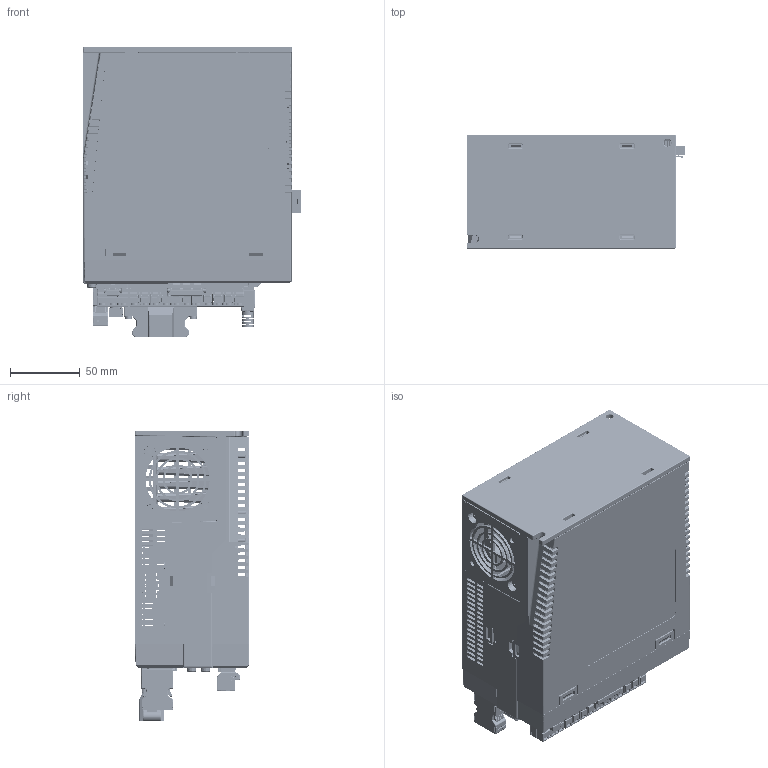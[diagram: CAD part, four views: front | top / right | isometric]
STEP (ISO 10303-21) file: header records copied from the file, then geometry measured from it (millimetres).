
FILE_DESCRIPTION((''),'2;1');
FILE_NAME('M3_3KW_ASM','2025-03-20T16:39:45',('ms27526'),(''),'CREO PARAMETRIC BY PTC INC, 2018100','CREO PARAMETRIC BY PTC INC, 2018100','');
FILE_SCHEMA(('CONFIG_CONTROL_DESIGN'));
Products named in the file (51): _48_1_0001; M3_19000; _48_2_0001; 4219122000963_A2_ASM; M3_3KW_1_ASM; 9EDGK-7_5-03P-13-00AHH; PRT0001; 3698201101696_A2; 3698201101697_A1; 3698201101695_A2; 2256000; USB_; 000; 0001; BOARD; OPEN_CASCADE_STEP_TRANSL-136558; OPEN_CASCADE_STEP_TRANSL-182073; OPEN_CASCADE_STEP_TRANSL-182422; OPEN_CASCADE_STEP_TRANSL-182771; 312608800_ASM; J1_ASM; 312608080; J5_ASM; PCB_ASM; 4713101003946-A1_0210_6_ASM; BOARD-3517_1; M2E554451019M2E_1; J3_1_ASM_1_ASM; SHIELDING_1_1; INSULATOR_1_1; INSULATOR_2_1_1; 7499021125_1_ASM_1_ASM; J1_1_2_3_ASM_1_ASM; 529865079-2014_9_28_1; CN2_ASM_1_ASM; 771663888_1; CN1-688793_ASM_1_ASM; MINI-5PIN90_1__10001_1; 4718405010429_1_ASM_1_ASM; J2_1_ASM_1_ASM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
Assembly tree (53 placements, depth 7):
  M3_3KW_ASM
    M3_3KW_1_ASM
      4219122000963_A2_ASM
        _48_1_0001
        M3_19000
        _48_2_0001
    9EDGK-7_5-03P-13-00AHH
    PRT0001
    3698201101696_A2
    3698201101697_A1
    3698201101695_A2
    2256000
    USB_
    000
    0001
    4713101003946-A1_0210_6_ASM
      PCB_ASM
        BOARD
        J1_ASM
          312608800_ASM
            OPEN_CASCADE_STEP_TRANSL-136558
            OPEN_CASCADE_STEP_TRANSL-182073
            OPEN_CASCADE_STEP_TRANSL-182422
            OPEN_CASCADE_STEP_TRANSL-182771
        J5_ASM
          312608080
    1KWR_ASM
      4713101005321-A0_0308_ASM_1_ASM
        PCB_1_2_3_4_ASM_1_ASM
          BOARD-3517_1
          J3_1_ASM_1_ASM
            M2E554451019M2E_1
          J1_1_2_3_ASM_1_ASM
            7499021125_1_ASM_1_ASM
              SHIELDING_1_1
              INSULATOR_1_1
              INSULATOR_2_1_1  x2
          CN2_ASM_1_ASM
            529865079-2014_9_28_1
          CN1-688793_ASM_1_ASM
            771663888_1
          J2_1_ASM_1_ASM
            4718405010429_1_ASM_1_ASM
              MINI-5PIN90_1__10001_1
          J7_1_2_ASM_1_ASM
            6361-08FZXXDXMRX_1_1
    R0001
    STO2
    000
    0003  x2
    0004  x2
Bounding box: 156.77 x 82.2 x 208.8 mm (x, y, z)
Volume: 531757.8 mm3; surface area: 478116.7 mm2
Topology: 191 solids, 304 shells, 22571 faces, 62943 edges, 40743 vertices
Faces by surface type: plane 16837, cylinder 4476, bspline 406, cone 358, extrusion 209, torus 169, sphere 116
Entity records: 739488 total; most frequent: CARTESIAN_POINT 165292, ORIENTED_EDGE 123323, DIRECTION 111676, EDGE_CURVE 62290, VECTOR 49668, LINE 49459, VERTEX_POINT 40401, AXIS2_PLACEMENT_3D 31004
